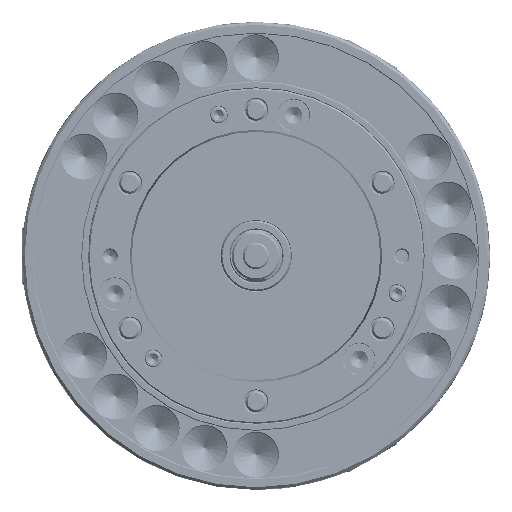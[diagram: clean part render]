
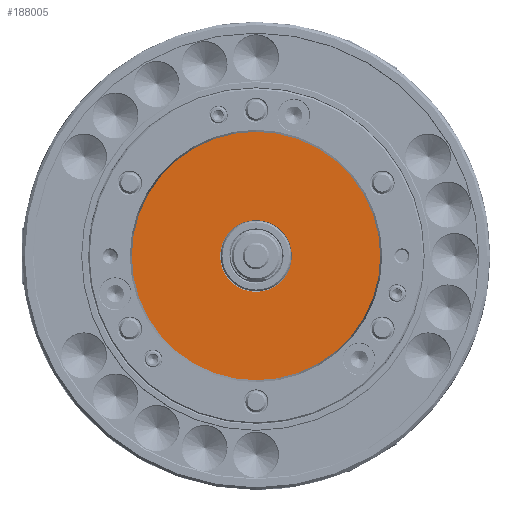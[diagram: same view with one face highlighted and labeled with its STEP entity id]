
A CAD part, left-side view. The second image highlights one B-rep face of the part: STEP entity #188005.
In plain terms, the highlighted planar face has unit normal (-1, 0, 0).
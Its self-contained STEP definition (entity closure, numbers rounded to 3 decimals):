
#2030 = CIRCLE ( 'NONE', #200249, 40.6 ) ;
#3974 = DIRECTION ( 'NONE',  ( -1., 0., 0. ) ) ;
#10278 = VERTEX_POINT ( 'NONE', #51943 ) ;
#11246 = DIRECTION ( 'NONE',  ( 0., 0., 1. ) ) ;
#11710 = ORIENTED_EDGE ( 'NONE', *, *, #126293, .T. ) ;
#21592 = AXIS2_PLACEMENT_3D ( 'NONE', #25728, #66614, #237281 ) ;
#25728 = CARTESIAN_POINT ( 'NONE',  ( -145., 0., 0. ) ) ;
#26975 = VERTEX_POINT ( 'NONE', #254522 ) ;
#35887 = AXIS2_PLACEMENT_3D ( 'NONE', #143140, #100799, #185431 ) ;
#39018 = ORIENTED_EDGE ( 'NONE', *, *, #161027, .F. ) ;
#42055 = DIRECTION ( 'NONE',  ( 0., 0., 1. ) ) ;
#43548 = EDGE_LOOP ( 'NONE', ( #213278, #39018 ) ) ;
#51943 = CARTESIAN_POINT ( 'NONE',  ( -145., 0., -40.6 ) ) ;
#57544 = CARTESIAN_POINT ( 'NONE',  ( -145., 140.7, 0. ) ) ;
#60314 = DIRECTION ( 'NONE',  ( 1., 0., 0. ) ) ;
#65734 = CARTESIAN_POINT ( 'NONE',  ( -145., 0., 140.7 ) ) ;
#66192 = AXIS2_PLACEMENT_3D ( 'NONE', #195714, #3974, #42055 ) ;
#66414 = ORIENTED_EDGE ( 'NONE', *, *, #68534, .T. ) ;
#66614 = DIRECTION ( 'NONE',  ( -1., 0., 0. ) ) ;
#68534 = EDGE_CURVE ( 'NONE', #212531, #241160, #252106, .T. ) ;
#89226 = AXIS2_PLACEMENT_3D ( 'NONE', #57544, #60314, #143587 ) ;
#97776 = CIRCLE ( 'NONE', #66192, 40.6 ) ;
#100799 = DIRECTION ( 'NONE',  ( -1., 0., 0. ) ) ;
#104040 = PLANE ( 'NONE',  #89226 ) ;
#126293 = EDGE_CURVE ( 'NONE', #241160, #212531, #179326, .T. ) ;
#143140 = CARTESIAN_POINT ( 'NONE',  ( -145., 0., 0. ) ) ;
#143587 = DIRECTION ( 'NONE',  ( 0., 0., -1. ) ) ;
#146567 = EDGE_CURVE ( 'NONE', #26975, #10278, #2030, .T. ) ;
#161027 = EDGE_CURVE ( 'NONE', #10278, #26975, #97776, .T. ) ;
#177240 = CARTESIAN_POINT ( 'NONE',  ( -145., 0., -140.7 ) ) ;
#179326 = CIRCLE ( 'NONE', #21592, 140.7 ) ;
#185431 = DIRECTION ( 'NONE',  ( 0., 0., 1. ) ) ;
#188005 = ADVANCED_FACE ( 'NONE', ( #253533, #250768 ), #104040, .F. ) ;
#195714 = CARTESIAN_POINT ( 'NONE',  ( -145., 0., 0. ) ) ;
#200249 = AXIS2_PLACEMENT_3D ( 'NONE', #208583, #228354, #11246 ) ;
#208583 = CARTESIAN_POINT ( 'NONE',  ( -145., 0., 0. ) ) ;
#212058 = EDGE_LOOP ( 'NONE', ( #66414, #11710 ) ) ;
#212531 = VERTEX_POINT ( 'NONE', #65734 ) ;
#213278 = ORIENTED_EDGE ( 'NONE', *, *, #146567, .F. ) ;
#228354 = DIRECTION ( 'NONE',  ( -1., 0., 0. ) ) ;
#237281 = DIRECTION ( 'NONE',  ( 0., 0., 1. ) ) ;
#241160 = VERTEX_POINT ( 'NONE', #177240 ) ;
#250768 = FACE_OUTER_BOUND ( 'NONE', #212058, .T. ) ;
#252106 = CIRCLE ( 'NONE', #35887, 140.7 ) ;
#253533 = FACE_BOUND ( 'NONE', #43548, .T. ) ;
#254522 = CARTESIAN_POINT ( 'NONE',  ( -145., 0., 40.6 ) ) ;
